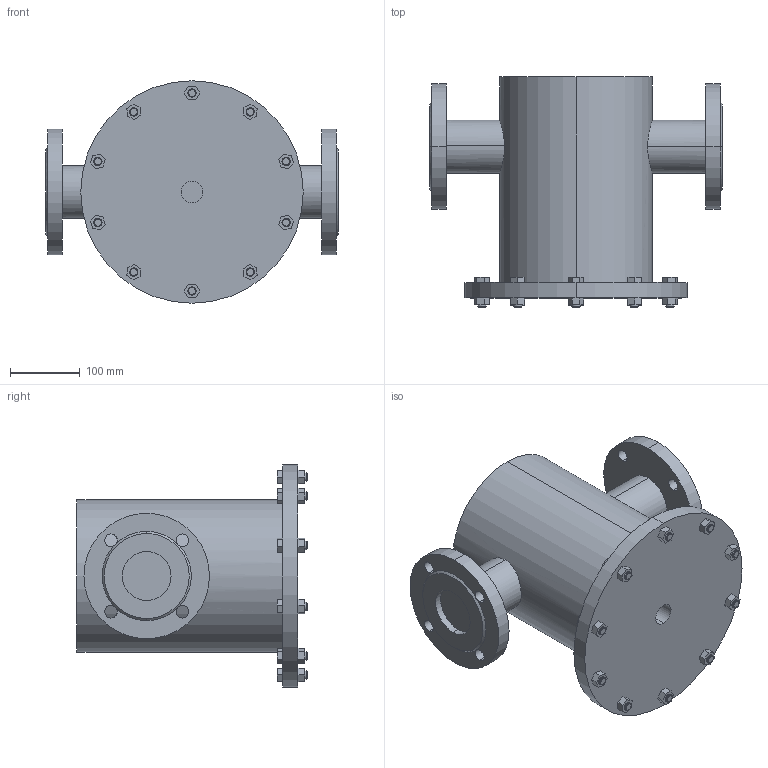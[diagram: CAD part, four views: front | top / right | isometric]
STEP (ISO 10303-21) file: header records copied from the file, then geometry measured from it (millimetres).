
FILE_DESCRIPTION (( 'STEP AP214' ), '1' );
FILE_NAME ('DN065 PN16.STEP', '2025-08-08T12:30:00', ( '' ), ( '' ), 'SwSTEP 2.0', 'SolidWorks 2023', '' );
FILE_SCHEMA (( 'AUTOMOTIVE_DESIGN' ));
Length unit declared in the file: millimetre
Products named in the file (1): DN065 PN16
Bounding box: 420 x 330 x 319 mm (x, y, z)
Volume: 14469720.9 mm3; surface area: 559477.5 mm2
Topology: 1 solids, 1 shells, 246 faces, 610 edges, 400 vertices
Faces by surface type: plane 164, cylinder 58, cone 24
Entity records: 8200 total; most frequent: CARTESIAN_POINT 1584, DIRECTION 1248, ORIENTED_EDGE 1220, EDGE_CURVE 610, LINE 442, VECTOR 442, AXIS2_PLACEMENT_3D 403, VERTEX_POINT 400
